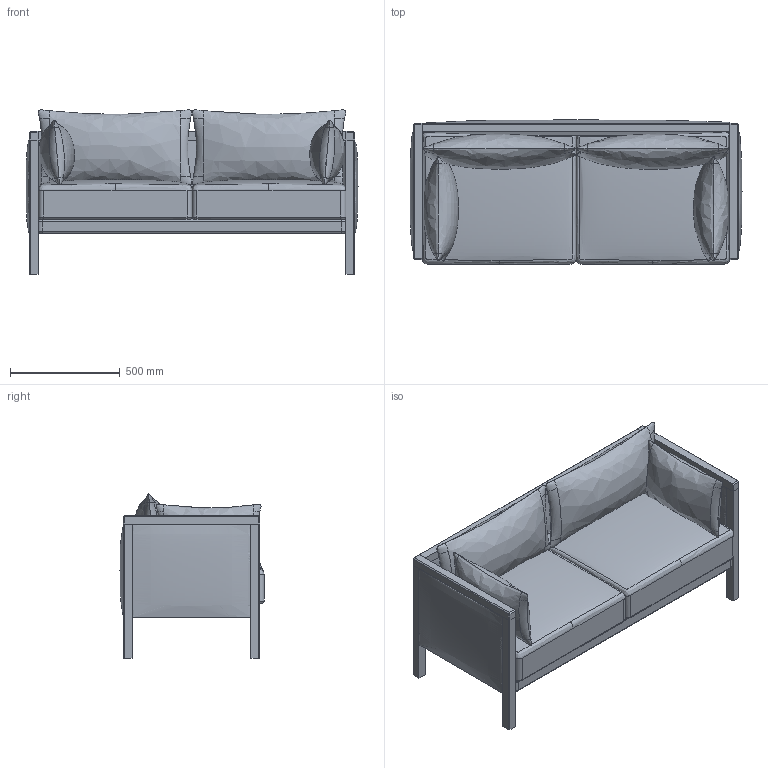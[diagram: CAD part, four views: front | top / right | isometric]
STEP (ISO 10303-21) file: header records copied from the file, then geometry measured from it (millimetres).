
FILE_DESCRIPTION(/* description */ (''),/* implementation_level */ '2;1');
FILE_NAME(/* name */ 'KINOSH~2',/* time_stamp */ '2019-07-22T16:15:35+09:00',/* author */ (''),/* organization */ (''),/* preprocessor_version */ 'ST-DEVELOPER v15',/* originating_system */ '',/* authorisation */ '');
FILE_SCHEMA (('AUTOMOTIVE_DESIGN'));
Length unit declared in the file: millimetre
Products named in the file (1): Document
Bounding box: 1510 x 654.95 x 747.66 mm (x, y, z)
Volume: 265376824.5 mm3; surface area: 8869474.8 mm2
Topology: 14 solids, 20 shells, 181 faces, 429 edges, 246 vertices
Faces by surface type: bspline 108, plane 73
Entity records: 127397 total; most frequent: CARTESIAN_POINT 124742, ORIENTED_EDGE 762, EDGE_CURVE 393, B_SPLINE_CURVE_WITH_KNOTS 333, VERTEX_POINT 246, ADVANCED_FACE 181, FACE_OUTER_BOUND 181, EDGE_LOOP 181
